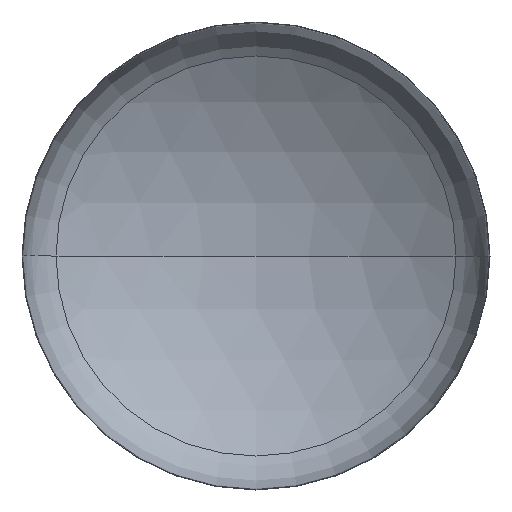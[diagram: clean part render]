
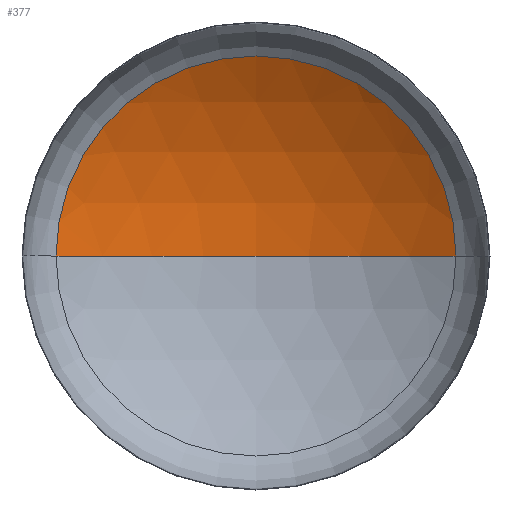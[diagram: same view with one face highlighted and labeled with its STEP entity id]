
A CAD part, front view. The second image highlights one B-rep face of the part: STEP entity #377.
In plain terms, the highlighted spherical face has radius 2240 mm.
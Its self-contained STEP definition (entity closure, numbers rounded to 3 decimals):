
#2 = AXIS2_PLACEMENT_3D ( 'NONE', #132, #138, #396 ) ;
#14 = AXIS2_PLACEMENT_3D ( 'NONE', #327, #222, #260 ) ;
#21 = AXIS2_PLACEMENT_3D ( 'NONE', #320, #262, #105 ) ;
#34 = AXIS2_PLACEMENT_3D ( 'NONE', #115, #123, #154 ) ;
#36 = ORIENTED_EDGE ( 'NONE', *, *, #335, .T. ) ;
#38 = VERTEX_POINT ( 'NONE', #274 ) ;
#100 = ORIENTED_EDGE ( 'NONE', *, *, #359, .T. ) ;
#105 = DIRECTION ( 'NONE',  ( 1., 0., 0. ) ) ;
#115 = CARTESIAN_POINT ( 'NONE',  ( 0., -1510.036, 0. ) ) ;
#120 = CARTESIAN_POINT ( 'NONE',  ( 1196.729, 383.489, 0. ) ) ;
#123 = DIRECTION ( 'NONE',  ( 0., 0., -1. ) ) ;
#132 = CARTESIAN_POINT ( 'NONE',  ( 0., -1510.036, 0. ) ) ;
#138 = DIRECTION ( 'NONE',  ( 0., 0., -1. ) ) ;
#153 = EDGE_LOOP ( 'NONE', ( #406, #36, #100 ) ) ;
#154 = DIRECTION ( 'NONE',  ( -1., 0., 0. ) ) ;
#183 = SPHERICAL_SURFACE ( 'NONE', #2, 2240. ) ;
#196 = CIRCLE ( 'NONE', #14, 1196.729 ) ;
#204 = CIRCLE ( 'NONE', #21, 2240. ) ;
#222 = DIRECTION ( 'NONE',  ( 0., -1., 0. ) ) ;
#260 = DIRECTION ( 'NONE',  ( 1., 0., 0. ) ) ;
#262 = DIRECTION ( 'NONE',  ( 0., 0., 1. ) ) ;
#271 = CARTESIAN_POINT ( 'NONE',  ( 0., 729.964, 0. ) ) ;
#274 = CARTESIAN_POINT ( 'NONE',  ( -1196.729, 383.489, 0. ) ) ;
#280 = VERTEX_POINT ( 'NONE', #271 ) ;
#320 = CARTESIAN_POINT ( 'NONE',  ( 0., -1510.036, 0. ) ) ;
#327 = CARTESIAN_POINT ( 'NONE',  ( 0., 383.489, 0. ) ) ;
#335 = EDGE_CURVE ( 'NONE', #280, #395, #338, .T. ) ;
#338 = CIRCLE ( 'NONE', #34, 2240. ) ;
#345 = EDGE_CURVE ( 'NONE', #280, #38, #204, .T. ) ;
#359 = EDGE_CURVE ( 'NONE', #395, #38, #196, .T. ) ;
#377 = ADVANCED_FACE ( 'NONE', ( #382 ), #183, .F. ) ;
#382 = FACE_OUTER_BOUND ( 'NONE', #153, .T. ) ;
#395 = VERTEX_POINT ( 'NONE', #120 ) ;
#396 = DIRECTION ( 'NONE',  ( -1., 0., 0. ) ) ;
#406 = ORIENTED_EDGE ( 'NONE', *, *, #345, .F. ) ;
